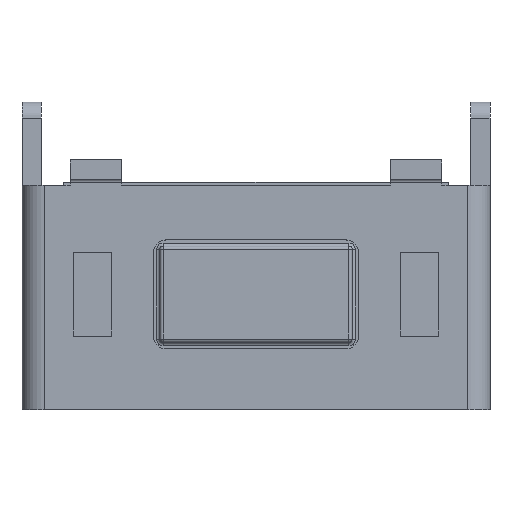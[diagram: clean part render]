
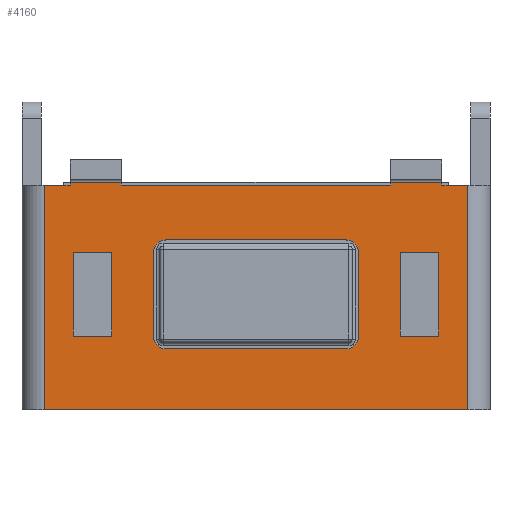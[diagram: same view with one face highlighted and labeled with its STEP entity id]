
A CAD part, top view. The second image highlights one B-rep face of the part: STEP entity #4160.
In plain terms, the highlighted planar face has unit normal (0, 0, 1).
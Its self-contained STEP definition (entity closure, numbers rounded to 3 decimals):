
#461=DIRECTION('',(-1.,0.,0.));
#462=VECTOR('',#461,0.4);
#463=CARTESIAN_POINT('',(6.59,17.284,2.));
#464=LINE('',#463,#462);
#743=DIRECTION('',(1.,0.,0.));
#744=VECTOR('',#743,6.6);
#745=CARTESIAN_POINT('',(6.19,13.784,2.));
#746=LINE('',#745,#744);
#801=DIRECTION('',(0.,-1.,0.));
#802=VECTOR('',#801,3.5);
#803=CARTESIAN_POINT('',(6.19,17.284,2.));
#804=LINE('',#803,#802);
#805=DIRECTION('',(0.,-1.,0.));
#806=VECTOR('',#805,0.045);
#807=CARTESIAN_POINT('',(12.39,17.329,2.));
#808=LINE('',#807,#806);
#809=DIRECTION('',(1.,0.,0.));
#810=VECTOR('',#809,0.4);
#811=CARTESIAN_POINT('',(12.39,17.284,2.));
#812=LINE('',#811,#810);
#813=DIRECTION('',(1.,0.,0.));
#814=VECTOR('',#813,0.8);
#815=CARTESIAN_POINT('',(11.59,17.329,2.));
#816=LINE('',#815,#814);
#817=CARTESIAN_POINT('',(10.89,16.234,2.));
#818=DIRECTION('',(0.,0.,1.));
#819=DIRECTION('',(1.,0.,0.));
#820=AXIS2_PLACEMENT_3D('',#817,#818,#819);
#822=CARTESIAN_POINT('',(8.09,16.234,2.));
#823=DIRECTION('',(0.,0.,1.));
#824=DIRECTION('',(0.,1.,0.));
#825=AXIS2_PLACEMENT_3D('',#822,#823,#824);
#827=CARTESIAN_POINT('',(8.09,14.934,2.));
#828=DIRECTION('',(0.,0.,1.));
#829=DIRECTION('',(-1.,0.,0.));
#830=AXIS2_PLACEMENT_3D('',#827,#828,#829);
#832=CARTESIAN_POINT('',(10.89,14.934,2.));
#833=DIRECTION('',(0.,0.,1.));
#834=DIRECTION('',(0.,-1.,0.));
#835=AXIS2_PLACEMENT_3D('',#832,#833,#834);
#837=DIRECTION('',(0.,1.,0.));
#838=VECTOR('',#837,3.5);
#839=CARTESIAN_POINT('',(12.79,13.784,2.));
#840=LINE('',#839,#838);
#845=DIRECTION('',(0.,-1.,0.));
#846=VECTOR('',#845,0.045);
#847=CARTESIAN_POINT('',(6.59,17.329,2.));
#848=LINE('',#847,#846);
#885=DIRECTION('',(0.,1.,0.));
#886=VECTOR('',#885,0.045);
#887=CARTESIAN_POINT('',(7.39,17.284,2.));
#888=LINE('',#887,#886);
#893=DIRECTION('',(-1.,0.,0.));
#894=VECTOR('',#893,4.2);
#895=CARTESIAN_POINT('',(11.59,17.284,2.));
#896=LINE('',#895,#894);
#905=DIRECTION('',(0.,-1.,0.));
#906=VECTOR('',#905,0.045);
#907=CARTESIAN_POINT('',(11.59,17.329,2.));
#908=LINE('',#907,#906);
#971=DIRECTION('',(-1.,0.,0.));
#972=VECTOR('',#971,0.8);
#973=CARTESIAN_POINT('',(7.39,17.329,2.));
#974=LINE('',#973,#972);
#1011=DIRECTION('',(0.,-1.,0.));
#1012=VECTOR('',#1011,1.3);
#1013=CARTESIAN_POINT('',(11.09,16.234,2.));
#1014=LINE('',#1013,#1012);
#1295=DIRECTION('',(-1.,0.,0.));
#1296=VECTOR('',#1295,2.8);
#1297=CARTESIAN_POINT('',(10.89,14.734,2.));
#1298=LINE('',#1297,#1296);
#1307=DIRECTION('',(0.,1.,0.));
#1308=VECTOR('',#1307,1.3);
#1309=CARTESIAN_POINT('',(7.89,14.934,2.));
#1310=LINE('',#1309,#1308);
#1319=DIRECTION('',(1.,0.,0.));
#1320=VECTOR('',#1319,2.8);
#1321=CARTESIAN_POINT('',(8.09,16.434,2.));
#1322=LINE('',#1321,#1320);
#1331=DIRECTION('',(1.,0.,0.));
#1332=VECTOR('',#1331,0.6);
#1333=CARTESIAN_POINT('',(11.74,16.234,2.));
#1334=LINE('',#1333,#1332);
#1335=DIRECTION('',(0.,-1.,0.));
#1336=VECTOR('',#1335,1.3);
#1337=CARTESIAN_POINT('',(12.34,16.234,2.));
#1338=LINE('',#1337,#1336);
#1343=DIRECTION('',(-1.,0.,0.));
#1344=VECTOR('',#1343,0.6);
#1345=CARTESIAN_POINT('',(12.34,14.934,2.));
#1346=LINE('',#1345,#1344);
#1351=DIRECTION('',(0.,1.,0.));
#1352=VECTOR('',#1351,1.3);
#1353=CARTESIAN_POINT('',(11.74,14.934,2.));
#1354=LINE('',#1353,#1352);
#1379=DIRECTION('',(0.,-1.,0.));
#1380=VECTOR('',#1379,1.3);
#1381=CARTESIAN_POINT('',(7.24,16.234,2.));
#1382=LINE('',#1381,#1380);
#1383=DIRECTION('',(-1.,0.,0.));
#1384=VECTOR('',#1383,0.6);
#1385=CARTESIAN_POINT('',(7.24,14.934,2.));
#1386=LINE('',#1385,#1384);
#1391=DIRECTION('',(0.,1.,0.));
#1392=VECTOR('',#1391,1.3);
#1393=CARTESIAN_POINT('',(6.64,14.934,2.));
#1394=LINE('',#1393,#1392);
#1399=DIRECTION('',(1.,0.,0.));
#1400=VECTOR('',#1399,0.6);
#1401=CARTESIAN_POINT('',(6.64,16.234,2.));
#1402=LINE('',#1401,#1400);
#2595=CARTESIAN_POINT('',(12.79,13.784,2.));
#2596=VERTEX_POINT('',#2595);
#2607=CARTESIAN_POINT('',(11.59,17.329,2.));
#2608=VERTEX_POINT('',#2607);
#2619=CARTESIAN_POINT('',(12.39,17.329,2.));
#2620=VERTEX_POINT('',#2619);
#2621=CARTESIAN_POINT('',(12.39,17.284,2.));
#2622=VERTEX_POINT('',#2621);
#2623=CARTESIAN_POINT('',(12.79,17.284,2.));
#2624=VERTEX_POINT('',#2623);
#2625=CARTESIAN_POINT('',(6.19,13.784,2.));
#2626=VERTEX_POINT('',#2625);
#2627=CARTESIAN_POINT('',(6.59,17.284,2.));
#2628=CARTESIAN_POINT('',(6.19,17.284,2.));
#2629=VERTEX_POINT('',#2627);
#2630=VERTEX_POINT('',#2628);
#2631=CARTESIAN_POINT('',(6.59,17.329,2.));
#2632=VERTEX_POINT('',#2631);
#2633=CARTESIAN_POINT('',(7.39,17.284,2.));
#2634=CARTESIAN_POINT('',(7.39,17.329,2.));
#2635=VERTEX_POINT('',#2633);
#2636=VERTEX_POINT('',#2634);
#2637=CARTESIAN_POINT('',(11.59,17.284,2.));
#2638=VERTEX_POINT('',#2637);
#2639=CARTESIAN_POINT('',(11.09,16.234,2.));
#2640=CARTESIAN_POINT('',(10.89,16.434,2.));
#2641=VERTEX_POINT('',#2639);
#2642=VERTEX_POINT('',#2640);
#2643=CARTESIAN_POINT('',(8.09,16.434,2.));
#2644=CARTESIAN_POINT('',(7.89,16.234,2.));
#2645=VERTEX_POINT('',#2643);
#2646=VERTEX_POINT('',#2644);
#2647=CARTESIAN_POINT('',(7.89,14.934,2.));
#2648=CARTESIAN_POINT('',(8.09,14.734,2.));
#2649=VERTEX_POINT('',#2647);
#2650=VERTEX_POINT('',#2648);
#2651=CARTESIAN_POINT('',(10.89,14.734,2.));
#2652=CARTESIAN_POINT('',(11.09,14.934,2.));
#2653=VERTEX_POINT('',#2651);
#2654=VERTEX_POINT('',#2652);
#3009=CARTESIAN_POINT('',(11.74,16.234,2.));
#3010=CARTESIAN_POINT('',(12.34,16.234,2.));
#3011=VERTEX_POINT('',#3009);
#3012=VERTEX_POINT('',#3010);
#3013=CARTESIAN_POINT('',(12.34,14.934,2.));
#3014=VERTEX_POINT('',#3013);
#3015=CARTESIAN_POINT('',(11.74,14.934,2.));
#3016=VERTEX_POINT('',#3015);
#3017=CARTESIAN_POINT('',(7.24,16.234,2.));
#3018=CARTESIAN_POINT('',(7.24,14.934,2.));
#3019=VERTEX_POINT('',#3017);
#3020=VERTEX_POINT('',#3018);
#3021=CARTESIAN_POINT('',(6.64,14.934,2.));
#3022=VERTEX_POINT('',#3021);
#3023=CARTESIAN_POINT('',(6.64,16.234,2.));
#3024=VERTEX_POINT('',#3023);
#4096=CARTESIAN_POINT('',(9.49,15.557,2.));
#4097=DIRECTION('',(0.,0.,1.));
#4098=DIRECTION('',(1.,0.,0.));
#4099=AXIS2_PLACEMENT_3D('',#4096,#4097,#4098);
#4100=PLANE('',#4099);
#4101=ORIENTED_EDGE('',*,*,#3701,.T.);
#4102=ORIENTED_EDGE('',*,*,#3716,.T.);
#4104=ORIENTED_EDGE('',*,*,#4103,.F.);
#4105=ORIENTED_EDGE('',*,*,#3998,.F.);
#4106=ORIENTED_EDGE('',*,*,#4091,.F.);
#4107=ORIENTED_EDGE('',*,*,#3626,.F.);
#4109=ORIENTED_EDGE('',*,*,#4108,.F.);
#4111=ORIENTED_EDGE('',*,*,#4110,.F.);
#4113=ORIENTED_EDGE('',*,*,#4112,.F.);
#4115=ORIENTED_EDGE('',*,*,#4114,.F.);
#4117=ORIENTED_EDGE('',*,*,#4116,.F.);
#4119=ORIENTED_EDGE('',*,*,#4118,.T.);
#4120=EDGE_LOOP('',(#4101,#4102,#4104,#4105,#4106,#4107,#4109,#4111,#4113,#4115,
#4117,#4119));
#4121=FACE_OUTER_BOUND('',#4120,.F.);
#4123=ORIENTED_EDGE('',*,*,#4122,.F.);
#4125=ORIENTED_EDGE('',*,*,#4124,.T.);
#4127=ORIENTED_EDGE('',*,*,#4126,.F.);
#4129=ORIENTED_EDGE('',*,*,#4128,.T.);
#4131=ORIENTED_EDGE('',*,*,#4130,.F.);
#4133=ORIENTED_EDGE('',*,*,#4132,.T.);
#4135=ORIENTED_EDGE('',*,*,#4134,.F.);
#4137=ORIENTED_EDGE('',*,*,#4136,.T.);
#4138=EDGE_LOOP('',(#4123,#4125,#4127,#4129,#4131,#4133,#4135,#4137));
#4139=FACE_BOUND('',#4138,.F.);
#4141=ORIENTED_EDGE('',*,*,#4140,.F.);
#4143=ORIENTED_EDGE('',*,*,#4142,.F.);
#4145=ORIENTED_EDGE('',*,*,#4144,.F.);
#4147=ORIENTED_EDGE('',*,*,#4146,.F.);
#4148=EDGE_LOOP('',(#4141,#4143,#4145,#4147));
#4149=FACE_BOUND('',#4148,.F.);
#4151=ORIENTED_EDGE('',*,*,#4150,.F.);
#4153=ORIENTED_EDGE('',*,*,#4152,.F.);
#4155=ORIENTED_EDGE('',*,*,#4154,.F.);
#4157=ORIENTED_EDGE('',*,*,#4156,.F.);
#4158=EDGE_LOOP('',(#4151,#4153,#4155,#4157));
#4159=FACE_BOUND('',#4158,.F.);
#821=CIRCLE('',#820,0.2);
#826=CIRCLE('',#825,0.2);
#831=CIRCLE('',#830,0.2);
#836=CIRCLE('',#835,0.2);
#3626=EDGE_CURVE('',#2629,#2630,#464,.T.);
#3701=EDGE_CURVE('',#2620,#2622,#808,.T.);
#3716=EDGE_CURVE('',#2622,#2624,#812,.T.);
#3998=EDGE_CURVE('',#2626,#2596,#746,.T.);
#4091=EDGE_CURVE('',#2630,#2626,#804,.T.);
#4103=EDGE_CURVE('',#2596,#2624,#840,.T.);
#4108=EDGE_CURVE('',#2632,#2629,#848,.T.);
#4110=EDGE_CURVE('',#2636,#2632,#974,.T.);
#4112=EDGE_CURVE('',#2635,#2636,#888,.T.);
#4114=EDGE_CURVE('',#2638,#2635,#896,.T.);
#4116=EDGE_CURVE('',#2608,#2638,#908,.T.);
#4118=EDGE_CURVE('',#2608,#2620,#816,.T.);
#4122=EDGE_CURVE('',#2641,#2654,#1014,.T.);
#4124=EDGE_CURVE('',#2641,#2642,#821,.T.);
#4126=EDGE_CURVE('',#2645,#2642,#1322,.T.);
#4128=EDGE_CURVE('',#2645,#2646,#826,.T.);
#4130=EDGE_CURVE('',#2649,#2646,#1310,.T.);
#4132=EDGE_CURVE('',#2649,#2650,#831,.T.);
#4134=EDGE_CURVE('',#2653,#2650,#1298,.T.);
#4136=EDGE_CURVE('',#2653,#2654,#836,.T.);
#4140=EDGE_CURVE('',#3011,#3012,#1334,.T.);
#4142=EDGE_CURVE('',#3016,#3011,#1354,.T.);
#4144=EDGE_CURVE('',#3014,#3016,#1346,.T.);
#4146=EDGE_CURVE('',#3012,#3014,#1338,.T.);
#4150=EDGE_CURVE('',#3019,#3020,#1382,.T.);
#4152=EDGE_CURVE('',#3024,#3019,#1402,.T.);
#4154=EDGE_CURVE('',#3022,#3024,#1394,.T.);
#4156=EDGE_CURVE('',#3020,#3022,#1386,.T.);
#4160=ADVANCED_FACE('',(#4121,#4139,#4149,#4159),#4100,.T.);
